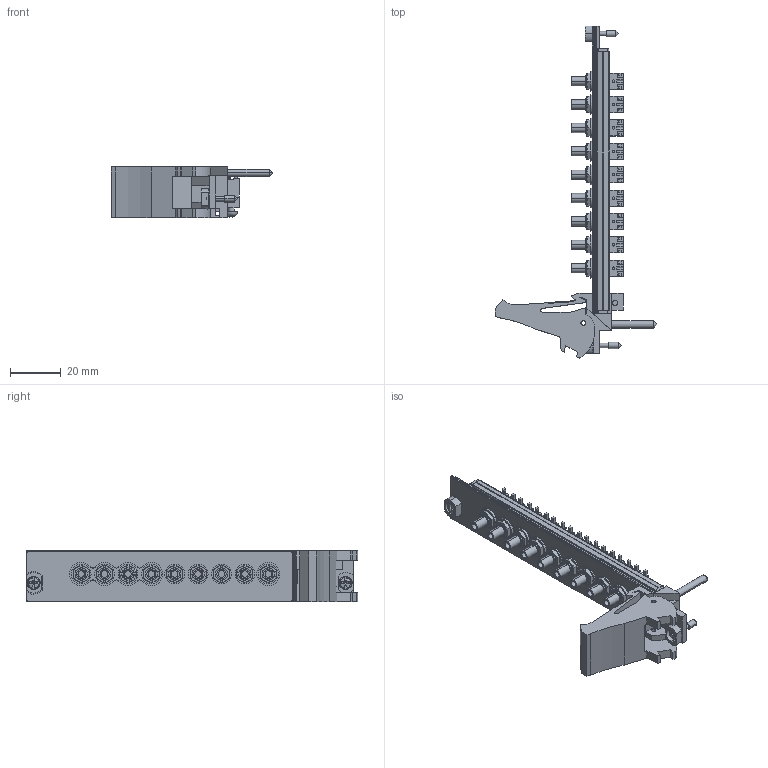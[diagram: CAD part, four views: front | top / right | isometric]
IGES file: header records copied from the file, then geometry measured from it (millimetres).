
Start section:  PTC IGES file: cu_pxi-5105.igs
Global section: file name: cu_pxi-5105.igs; native system: Pro/ENGINEER by Parametric Technology Corporation; preprocessor: 2006080; author: jjorden; organization: Unknown; date: 091113.100339; units: inch
Bounding box: 63.53 x 130.51 x 20.31 mm (x, y, z)
Surface area: 21493.3 mm2 (no closed solid volume)
Topology: 0 solids, 0 shells, 1155 faces, 5808 edges, 5800 vertices
Faces by surface type: bspline 800, revolution 355
